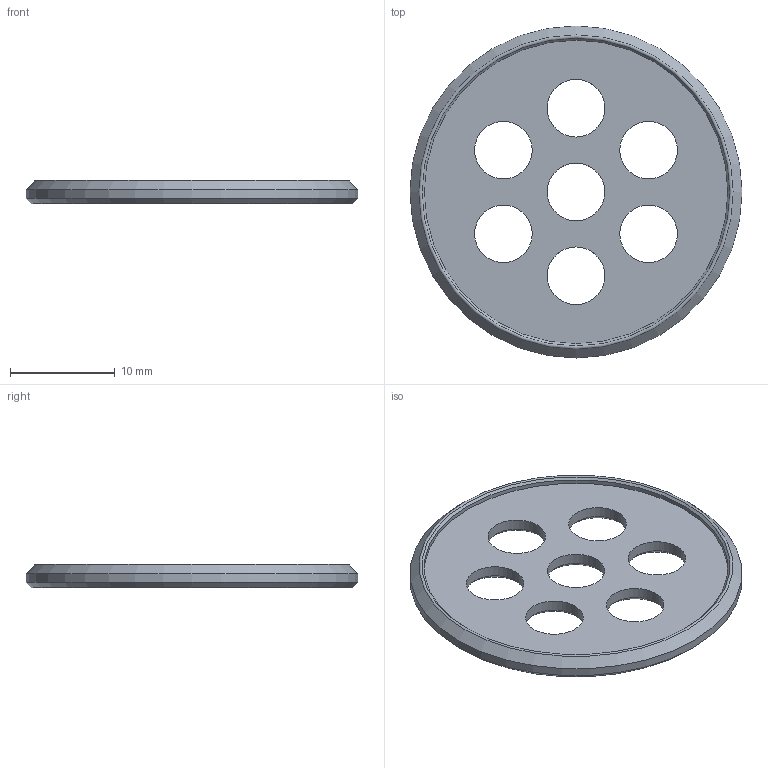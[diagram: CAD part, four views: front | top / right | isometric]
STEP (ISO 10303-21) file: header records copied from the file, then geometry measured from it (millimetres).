
FILE_DESCRIPTION(/* description */ (''),/* implementation_level */ '2;1');
FILE_NAME(/* name */ 'Piezo Cover v5.step',/* time_stamp */ '2024-08-02T08:31:59-07:00',/* author */ (''),/* organization */ (''),/* preprocessor_version */ 'ST-DEVELOPER v20',/* originating_system */ 'Autodesk Translation Framework v13.14.0.145',/* authorisation */ '');
FILE_SCHEMA (('AUTOMOTIVE_DESIGN { 1 0 10303 214 3 1 1 }'));
Length unit declared in the file: millimetre
Products named in the file (1): Piezo Cover
Bounding box: 31.7 x 31.7 x 2.22 mm (x, y, z)
Volume: 978.6 mm3; surface area: 1581.9 mm2
Topology: 1 solids, 1 shells, 22 faces, 49 edges, 29 vertices
Faces by surface type: cone 10, cylinder 9, plane 2, torus 1
Full cylindrical faces by diameter (mm): 5.5 x7, 29 x1, 31.7 x1
Entity records: 676 total; most frequent: DIRECTION 125, CARTESIAN_POINT 101, ORIENTED_EDGE 98, AXIS2_PLACEMENT_3D 53, EDGE_CURVE 49, EDGE_LOOP 36, CIRCLE 30, VERTEX_POINT 29
